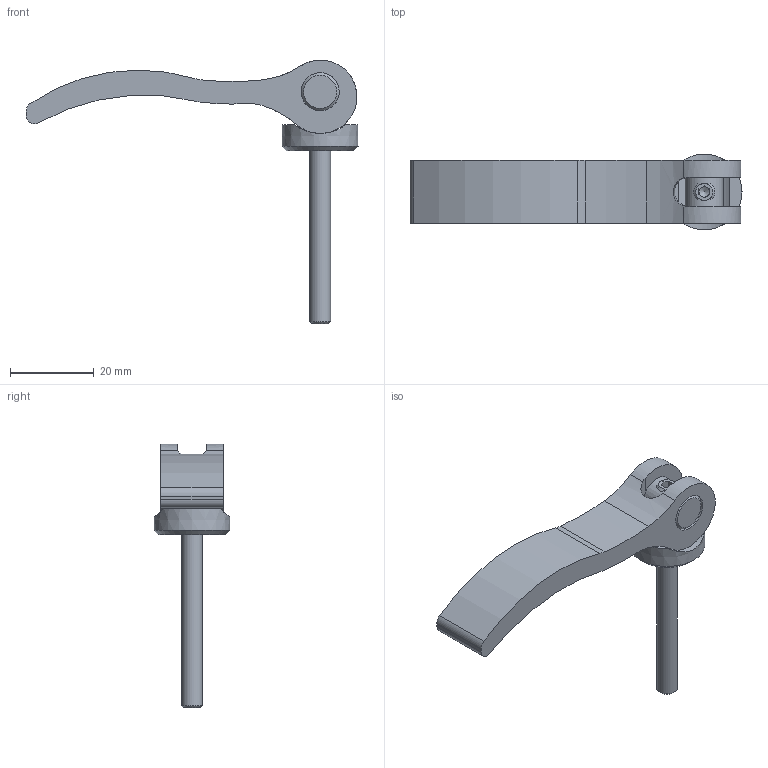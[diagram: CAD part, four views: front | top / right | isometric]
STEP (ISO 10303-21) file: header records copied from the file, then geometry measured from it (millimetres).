
FILE_DESCRIPTION(('STEP AP203'), '1');
FILE_NAME('À00360.11790520 _ Ýêñöåíòðèê 79 ìì', '', ('UNSPECIFIED'), ('UNSPECIFIED'), 'C3D Converter', 'C3D Toolkit', '');
FILE_SCHEMA(('CONFIG_CONTROL_DESIGN'));
Length unit declared in the file: millimetre
Products named in the file (5): А00360.79.03; А00360.79.02; А00360.79.01
Assembly tree (4 placements, depth 2):
  (unnamed)
    А00360.79.03
    А00360.79.02
    А00360.79.01
    (unnamed)
Bounding box: 79.33 x 18.07 x 63 mm (x, y, z)
Volume: 10187.4 mm3; surface area: 6518 mm2
Topology: 4 solids, 4 shells, 52 faces, 128 edges, 82 vertices
Faces by surface type: plane 24, cylinder 21, cone 7
Full cylindrical faces by diameter (mm): 4.134 x1, 5 x1, 6.6 x1, 9.1 x3
Entity records: 2375 total; most frequent: CARTESIAN_POINT 907, DIRECTION 269, ORIENTED_EDGE 228, EDGE_CURVE 114, AXIS2_PLACEMENT_3D 111, VERTEX_POINT 81, EDGE_LOOP 71, FACE_BOUND 54
